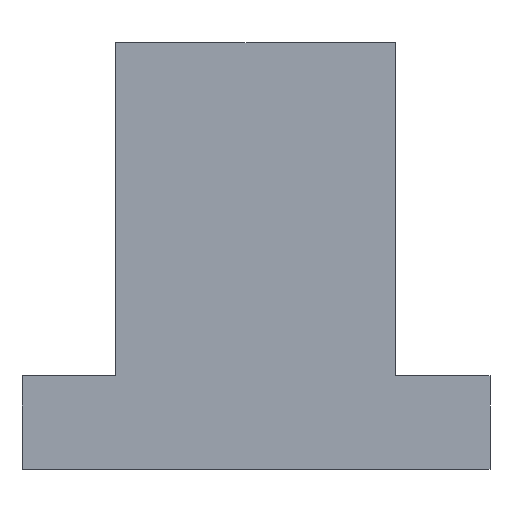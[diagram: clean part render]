
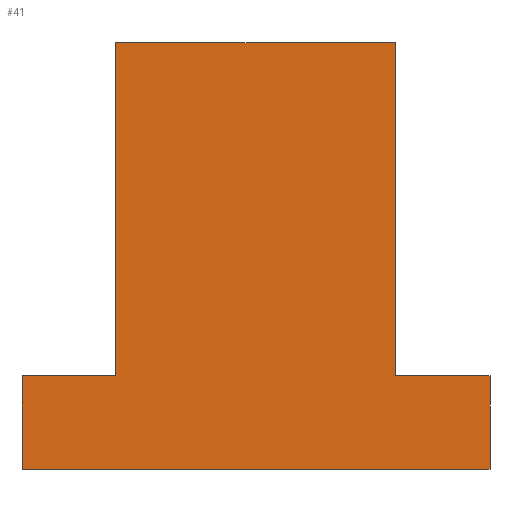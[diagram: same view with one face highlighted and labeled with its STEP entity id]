
A CAD part, front view. The second image highlights one B-rep face of the part: STEP entity #41.
In plain terms, the highlighted planar face has unit normal (0, -1, 0).
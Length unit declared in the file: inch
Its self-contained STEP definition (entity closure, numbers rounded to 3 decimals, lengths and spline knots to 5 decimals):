
#13 = VERTEX_POINT ( 'NONE', #80 ) ;
#21 = DIRECTION ( 'NONE',  ( 0., 1., 0. ) ) ;
#22 = DIRECTION ( 'NONE',  ( 0., 0., 1. ) ) ;
#25 = DIRECTION ( 'NONE',  ( 1., 0., 0. ) ) ;
#29 = PLANE ( 'NONE',  #885 ) ;
#36 = CARTESIAN_POINT ( 'NONE',  ( -1.21736, -0.7653, 0.5 ) ) ;
#41 = ADVANCED_FACE ( 'NONE', ( #124 ), #29, .F. ) ;
#52 = ORIENTED_EDGE ( 'NONE', *, *, #775, .T. ) ;
#57 = VECTOR ( 'NONE', #159, 39.37008 ) ;
#68 = LINE ( 'NONE', #1517, #1418 ) ;
#80 = CARTESIAN_POINT ( 'NONE',  ( -1.21736, -0.7653, 0.5 ) ) ;
#111 = CARTESIAN_POINT ( 'NONE',  ( 0.77764, -0.7653, 2.28 ) ) ;
#124 = FACE_OUTER_BOUND ( 'NONE', #1122, .T. ) ;
#137 = DIRECTION ( 'NONE',  ( 0., 0., -1. ) ) ;
#157 = CARTESIAN_POINT ( 'NONE',  ( 1.28264, -0.7653, 0.5 ) ) ;
#159 = DIRECTION ( 'NONE',  ( 0., 0., -1. ) ) ;
#180 = DIRECTION ( 'NONE',  ( 1., 0., 0. ) ) ;
#184 = EDGE_CURVE ( 'NONE', #13, #951, #1472, .T. ) ;
#188 = CARTESIAN_POINT ( 'NONE',  ( -0.71736, -0.7653, 2.28 ) ) ;
#211 = ORIENTED_EDGE ( 'NONE', *, *, #564, .F. ) ;
#243 = VERTEX_POINT ( 'NONE', #495 ) ;
#251 = ORIENTED_EDGE ( 'NONE', *, *, #583, .F. ) ;
#260 = ORIENTED_EDGE ( 'NONE', *, *, #717, .F. ) ;
#282 = ORIENTED_EDGE ( 'NONE', *, *, #535, .F. ) ;
#289 = ORIENTED_EDGE ( 'NONE', *, *, #1435, .T. ) ;
#308 = LINE ( 'NONE', #157, #57 ) ;
#313 = VERTEX_POINT ( 'NONE', #636 ) ;
#317 = CARTESIAN_POINT ( 'NONE',  ( -1.21736, -0.7653, 0. ) ) ;
#319 = DIRECTION ( 'NONE',  ( 1., 0., 0. ) ) ;
#343 = DIRECTION ( 'NONE',  ( 0., 0., -1. ) ) ;
#375 = CARTESIAN_POINT ( 'NONE',  ( 0.77764, -0.7653, 0.5 ) ) ;
#378 = VERTEX_POINT ( 'NONE', #640 ) ;
#405 = VECTOR ( 'NONE', #507, 39.37008 ) ;
#430 = LINE ( 'NONE', #553, #405 ) ;
#495 = CARTESIAN_POINT ( 'NONE',  ( 1.28264, -0.7653, 0.5 ) ) ;
#507 = DIRECTION ( 'NONE',  ( 0., 0., -1. ) ) ;
#535 = EDGE_CURVE ( 'NONE', #1270, #1207, #703, .T. ) ;
#553 = CARTESIAN_POINT ( 'NONE',  ( -1.21736, -0.7653, 0.5 ) ) ;
#564 = EDGE_CURVE ( 'NONE', #1207, #671, #1373, .T. ) ;
#583 = EDGE_CURVE ( 'NONE', #671, #243, #1247, .T. ) ;
#584 = CARTESIAN_POINT ( 'NONE',  ( -0.71736, -0.7653, 0.5 ) ) ;
#599 = VECTOR ( 'NONE', #319, 39.37008 ) ;
#636 = CARTESIAN_POINT ( 'NONE',  ( -1.21736, -0.7653, 0. ) ) ;
#640 = CARTESIAN_POINT ( 'NONE',  ( 1.28264, -0.7653, 0. ) ) ;
#671 = VERTEX_POINT ( 'NONE', #375 ) ;
#703 = LINE ( 'NONE', #188, #1486 ) ;
#717 = EDGE_CURVE ( 'NONE', #243, #378, #308, .T. ) ;
#775 = EDGE_CURVE ( 'NONE', #313, #378, #1262, .T. ) ;
#885 = AXIS2_PLACEMENT_3D ( 'NONE', #36, #21, #22 ) ;
#919 = CARTESIAN_POINT ( 'NONE',  ( -0.71736, -0.7653, 2.28 ) ) ;
#920 = DIRECTION ( 'NONE',  ( 1., 0., 0. ) ) ;
#951 = VERTEX_POINT ( 'NONE', #584 ) ;
#973 = ORIENTED_EDGE ( 'NONE', *, *, #1520, .T. ) ;
#1007 = CARTESIAN_POINT ( 'NONE',  ( 0.77764, -0.7653, 2.28 ) ) ;
#1068 = ORIENTED_EDGE ( 'NONE', *, *, #184, .F. ) ;
#1122 = EDGE_LOOP ( 'NONE', ( #52, #260, #251, #211, #282, #289, #1068, #973 ) ) ;
#1161 = VECTOR ( 'NONE', #25, 39.37008 ) ;
#1192 = VECTOR ( 'NONE', #920, 39.37008 ) ;
#1207 = VERTEX_POINT ( 'NONE', #1007 ) ;
#1247 = LINE ( 'NONE', #1332, #1161 ) ;
#1262 = LINE ( 'NONE', #317, #599 ) ;
#1270 = VERTEX_POINT ( 'NONE', #919 ) ;
#1277 = CARTESIAN_POINT ( 'NONE',  ( -1.21736, -0.7653, 0.5 ) ) ;
#1332 = CARTESIAN_POINT ( 'NONE',  ( -1.21736, -0.7653, 0.5 ) ) ;
#1334 = VECTOR ( 'NONE', #137, 39.37008 ) ;
#1373 = LINE ( 'NONE', #111, #1334 ) ;
#1418 = VECTOR ( 'NONE', #343, 39.37008 ) ;
#1435 = EDGE_CURVE ( 'NONE', #1270, #951, #68, .T. ) ;
#1472 = LINE ( 'NONE', #1277, #1192 ) ;
#1486 = VECTOR ( 'NONE', #180, 39.37008 ) ;
#1517 = CARTESIAN_POINT ( 'NONE',  ( -0.71736, -0.7653, 2.28 ) ) ;
#1520 = EDGE_CURVE ( 'NONE', #13, #313, #430, .T. ) ;
